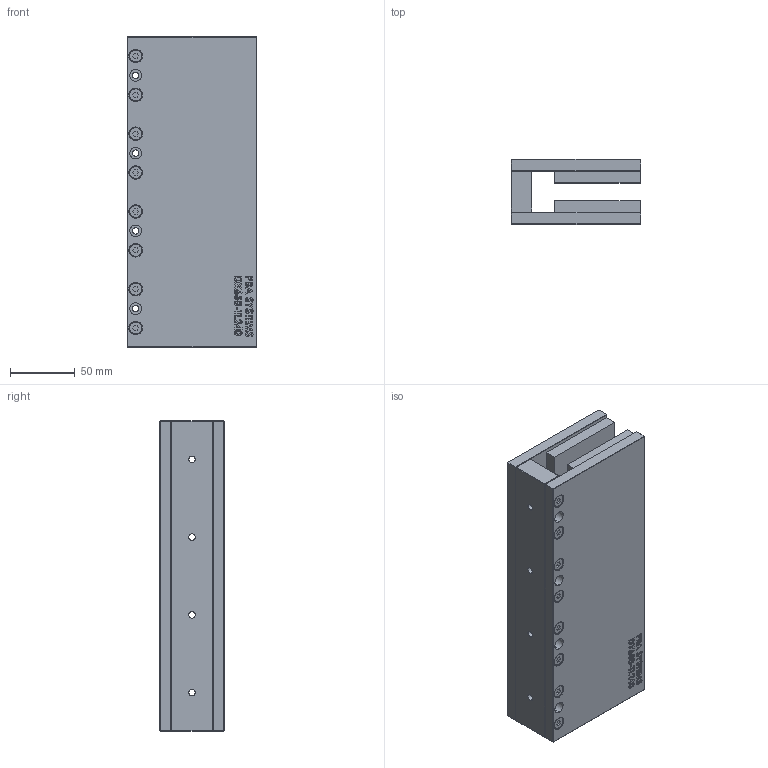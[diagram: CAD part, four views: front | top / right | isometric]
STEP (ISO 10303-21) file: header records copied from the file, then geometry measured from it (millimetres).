
FILE_DESCRIPTION (( 'STEP AP214' ), '1' );
FILE_NAME ('DX65B-TL240.STEP', '2016-05-11T10:14:51', ( '' ), ( '' ), 'SwSTEP 2.0', 'SolidWorks 2015', '' );
FILE_SCHEMA (( 'AUTOMOTIVE_DESIGN' ));
Length unit declared in the file: millimetre
Products named in the file (5): M6X12 DIN7984 STAINLESS STEEL; DX65B-0000-001_CUSTOMER_TL240; DX65B-TL240-002_TL240; DX65B-TL240-001_TL240; DX65B-TL240
Assembly tree (21 placements, depth 2):
  DX65B-TL240
    DX65B-TL240-001_TL240
    DX65B-TL240-002_TL240  x2
    DX65B-0000-001_CUSTOMER_TL240  x2
    M6X12 DIN7984 STAINLESS STEEL  x16
Bounding box: 100 x 50 x 239.5 mm (x, y, z)
Volume: 819840.9 mm3; surface area: 222071.4 mm2
Topology: 21 solids, 21 shells, 1092 faces, 2668 edges, 1720 vertices
Faces by surface type: plane 630, bspline 206, cylinder 192, cone 32, torus 32
Entity records: 19730 total; most frequent: CARTESIAN_POINT 8392, ORIENTED_EDGE 2312, DIRECTION 1848, EDGE_CURVE 1156, VECTOR 776, LINE 776, VERTEX_POINT 740, EDGE_LOOP 554
